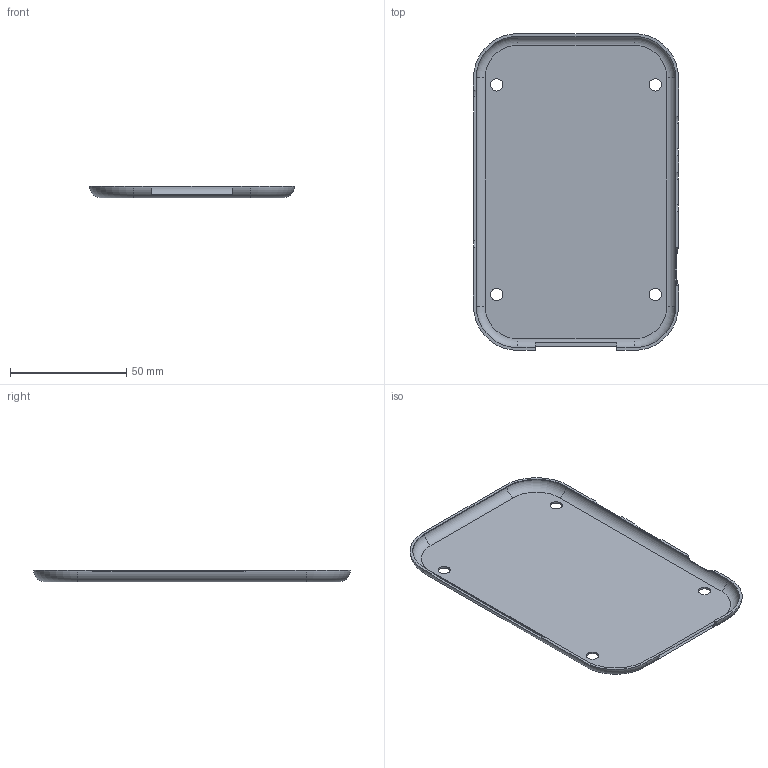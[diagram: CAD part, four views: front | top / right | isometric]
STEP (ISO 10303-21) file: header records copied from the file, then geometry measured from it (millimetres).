
FILE_DESCRIPTION(('Open CASCADE Model'),'2;1');
FILE_NAME('Open CASCADE Shape Model','2026-09-04T20:35:47',('Author'),( 'Open CASCADE'),'Open CASCADE STEP processor 7.7','Open CASCADE 7.7' ,'Unknown');
FILE_SCHEMA(('AUTOMOTIVE_DESIGN { 1 0 10303 214 1 1 1 1 }'));
Length unit declared in the file: millimetre
Products named in the file (1): Open CASCADE STEP translator 7.7 5
Bounding box: 88 x 136 x 4.9 mm (x, y, z)
Volume: 10043.6 mm3; surface area: 25099.7 mm2
Topology: 1 solids, 1 shells, 10139 faces, 30274 edges, 20180 vertices
Faces by surface type: plane 10105, cylinder 26, torus 8
Full cylindrical faces by diameter (mm): 5.3 x4
Entity records: 707302 total; most frequent: CARTESIAN_POINT 141836, DIRECTION 90914, LINE 70502, VECTOR 70502, ORIENTED_EDGE 60548, PCURVE 60548, DEFINITIONAL_REPRESENTATION 60548, EDGE_CURVE 30274
